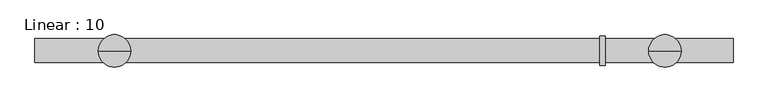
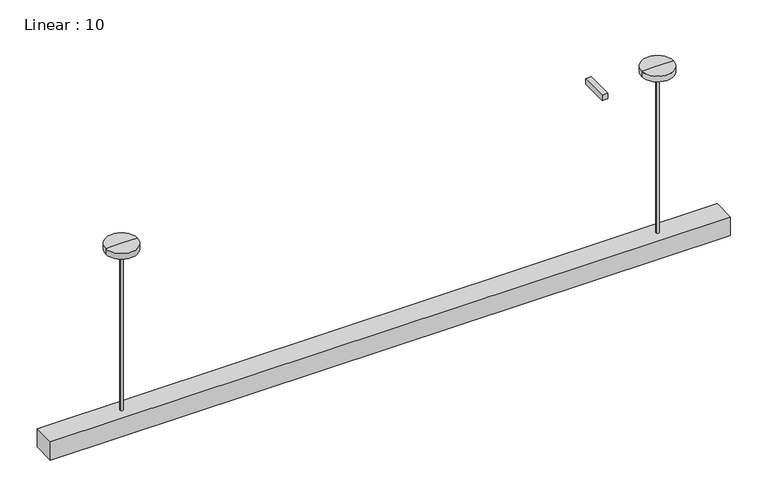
"""IFC4 building model written with IfcOpenShell, lengths in millimetres: light fixture geometry, Linear : 10."""

from ifc_helpers import new_model, si_unit, frame, origin, place, context, project, spatial, polyline, circle_curve, outline, extrude, source, transform, mapped, element, save
from ifc_brep_helpers import plane_surface, cylinder_surface, advanced_brep


def linear_10_ebc70024(model_context):
    return source(origin(), model_context, "Body", "SolidModel", [
        advanced_brep(
        [(-2166.62, 0.0, 5185.4634635), (-2026.92, 0.0, 5185.4634635), (-2026.92, 0.0, 5159.8407066), (-2166.62, 0.0, 5159.8407066), (-2090.42, 0.0, 5159.8407066), (-2103.12, 0.0, 5159.8407066), (-2090.42, 0.0, 4407.7121524), (-2103.12, 0.0, 4407.7121524), (-2096.77, 0.0, 4407.7121524), (-2096.77, 0.0, 5185.4634635)],
        [
            (0, 1, circle_curve(frame((-2096.77, 0.0, 5185.4634635), z_axis=(0.0, 0.0, -1.0), x_axis=(1.0, 0.0, 0.0)), 69.85)),
            (1, 2),
            (2, 3, circle_curve(frame((-2096.77, 0.0, 5159.8407066), z_axis=(0.0, 0.0, 1.0), x_axis=(1.0, 0.0, 0.0)), 69.85)),
            (3, 0),
            (1, 0, circle_curve(frame((-2096.77, 0.0, 5185.4634635), z_axis=(0.0, 0.0, -1.0), x_axis=(1.0, 0.0, 0.0)), 69.85)),
            (3, 2, circle_curve(frame((-2096.77, 0.0, 5159.8407066), z_axis=(0.0, 0.0, 1.0), x_axis=(1.0, 0.0, 0.0)), 69.85)),
            (2, 4),
            (4, 5, circle_curve(frame((-2096.77, 0.0, 5159.8407066), z_axis=(0.0, 0.0, 1.0), x_axis=(1.0, 0.0, 0.0)), 6.35)),
            (5, 3),
            (5, 4, circle_curve(frame((-2096.77, 0.0, 5159.8407066), z_axis=(0.0, 0.0, 1.0), x_axis=(1.0, 0.0, 0.0)), 6.35)),
            (4, 6),
            (6, 7, circle_curve(frame((-2096.77, 0.0, 4407.7121524), z_axis=(0.0, 0.0, 1.0), x_axis=(1.0, 0.0, 0.0)), 6.35)),
            (7, 5),
            (7, 6, circle_curve(frame((-2096.77, 0.0, 4407.7121524), z_axis=(0.0, 0.0, 1.0), x_axis=(1.0, 0.0, 0.0)), 6.35)),
            (6, 8),
            (8, 7),
            (9, 1),
            (0, 9),
        ],
        [
            cylinder_surface(frame((-2096.77, 0.0, 5280.7134635), z_axis=(0.0, 0.0, 1.0), x_axis=(1.0, 0.0, 0.0)), 69.85),
            plane_surface(frame((-2096.77, 0.0, 5159.8407066), z_axis=(0.0, 0.0, -1.0), x_axis=(1.0, 0.0, 0.0))),
            cylinder_surface(frame((-2096.77, 0.0, 5280.7134635), z_axis=(0.0, 0.0, 1.0), x_axis=(1.0, 0.0, 0.0)), 6.35),
            plane_surface(frame((-2096.77, 0.0, 4407.7121524), z_axis=(0.0, 0.0, -1.0), x_axis=(1.0, 0.0, 0.0))),
            plane_surface(frame((-2096.77, 0.0, 5185.4634635), z_axis=(0.0, 0.0, 1.0), x_axis=(1.0, 0.0, 0.0))),
        ],
        [
            (0, [[1, 2, 3, 4]]),
            (0, [[5, -4, 6, -2]]),
            (1, [[-3, 7, 8, 9]]),
            (1, [[-6, -9, 10, -7]]),
            (2, [[-8, 11, 12, 13]]),
            (2, [[-10, -13, 14, -11]]),
            (3, [[-12, 15, 16]]),
            (3, [[-14, -16, -15]]),
            (4, [[17, -1, 18]]),
            (4, [[-18, -5, -17]]),
        ],
    ),
        advanced_brep(
        [(337.82, 0.0, 5185.4634635), (198.12, 0.0, 5185.4634635), (267.97, 0.0, 5185.4634635), (337.82, 0.0, 5159.8407066), (198.12, 0.0, 5159.8407066), (274.32, 0.0, 5159.8407066), (261.62, 0.0, 5159.8407066), (274.32, 0.0, 4407.7121524), (261.62, 0.0, 4407.7121524), (267.97, 0.0, 4407.7121524)],
        [
            (0, 1, circle_curve(frame((267.97, 0.0, 5185.4634635), z_axis=(0.0, 0.0, 1.0), x_axis=(-1.0, 0.0, 0.0)), 69.85)),
            (1, 2),
            (2, 0),
            (1, 0, circle_curve(frame((267.97, 0.0, 5185.4634635), z_axis=(0.0, 0.0, 1.0), x_axis=(-1.0, 0.0, 0.0)), 69.85)),
            (3, 4, circle_curve(frame((267.97, 0.0, 5159.8407066), z_axis=(0.0, 0.0, 1.0), x_axis=(-1.0, 0.0, 0.0)), 69.85)),
            (4, 1),
            (0, 3),
            (4, 3, circle_curve(frame((267.97, 0.0, 5159.8407066), z_axis=(0.0, 0.0, 1.0), x_axis=(-1.0, 0.0, 0.0)), 69.85)),
            (5, 6, circle_curve(frame((267.97, 0.0, 5159.8407066), z_axis=(0.0, 0.0, 1.0), x_axis=(-1.0, 0.0, 0.0)), 6.35)),
            (6, 4),
            (3, 5),
            (6, 5, circle_curve(frame((267.97, 0.0, 5159.8407066), z_axis=(0.0, 0.0, 1.0), x_axis=(-1.0, 0.0, 0.0)), 6.35)),
            (7, 8, circle_curve(frame((267.97, 0.0, 4407.7121524), z_axis=(0.0, 0.0, 1.0), x_axis=(-1.0, 0.0, 0.0)), 6.35)),
            (8, 6),
            (5, 7),
            (8, 7, circle_curve(frame((267.97, 0.0, 4407.7121524), z_axis=(0.0, 0.0, 1.0), x_axis=(-1.0, 0.0, 0.0)), 6.35)),
            (9, 8),
            (7, 9),
        ],
        [
            plane_surface(frame((267.97, 0.0, 5185.4634635), z_axis=(0.0, 0.0, 1.0), x_axis=(-1.0, 0.0, 0.0))),
            cylinder_surface(frame((267.97, 0.0, 5280.7134635), z_axis=(0.0, 0.0, -1.0), x_axis=(-1.0, 0.0, 0.0)), 69.85),
            plane_surface(frame((267.97, 0.0, 5159.8407066), z_axis=(0.0, 0.0, -1.0), x_axis=(-1.0, 0.0, 0.0))),
            cylinder_surface(frame((267.97, 0.0, 5280.7134635), z_axis=(0.0, 0.0, -1.0), x_axis=(-1.0, 0.0, 0.0)), 6.35),
            plane_surface(frame((267.97, 0.0, 4407.7121524), z_axis=(0.0, 0.0, -1.0), x_axis=(-1.0, 0.0, 0.0))),
        ],
        [
            (0, [[1, 2, 3]]),
            (0, [[4, -3, -2]]),
            (1, [[5, 6, -1, 7]]),
            (1, [[8, -7, -4, -6]]),
            (2, [[9, 10, -5, 11]]),
            (2, [[12, -11, -8, -10]]),
            (3, [[13, 14, -9, 15]]),
            (3, [[16, -15, -12, -14]]),
            (4, [[17, -13, 18]]),
            (4, [[-18, -16, -17]]),
        ],
    ),
        extrude(outline(polyline([(12.7, -63.5), (-12.7, -63.5), (-12.7, 63.5), (12.7, 63.5), (12.7, -63.5)])), frame((0.0, 0.0, 5160.0634635), z_axis=(0.0, 0.0, 1.0), x_axis=(1.0, 0.0, 0.0)), (0.0, 0.0, 1.0), 25.4),
        extrude(outline(polyline([(561.0128607, 52.4766217), (561.0128607, -49.1233783), (-2438.4, -49.1233783), (-2438.4, 52.4766217), (561.0128607, 52.4766217)])), frame((0.0, 0.0, 4321.9871524), z_axis=(0.0, 0.0, 1.0), x_axis=(1.0, 0.0, 0.0)), (0.0, 0.0, 1.0), 85.725),
    ])


if __name__ == "__main__":
    model = new_model("IFC4")
    model_context = context("Model", 3, world=origin())
    ifc_project = project(units=[si_unit("LENGTHUNIT", "METRE", prefix="MILLI")], contexts=[model_context])
    site = spatial("IfcSite", under=ifc_project)
    building = spatial("IfcBuilding", under=site)
    placement = place(None, origin())
    linear_10_shape = linear_10_ebc70024(model_context)
    element("IfcLightFixture", 1, ObjectType="Linear : 10", at=placement, inside=building, context=model_context, shape_type="MappedRepresentation", body=[
        mapped(linear_10_shape, transform((0.0, 0.0, 0.0), x_axis=(1.0, 0.0, 0.0), y_axis=(0.0, 1.0, 0.0), z_axis=(0.0, 0.0, 1.0))),
    ])
    save(model, "model.ifc")
